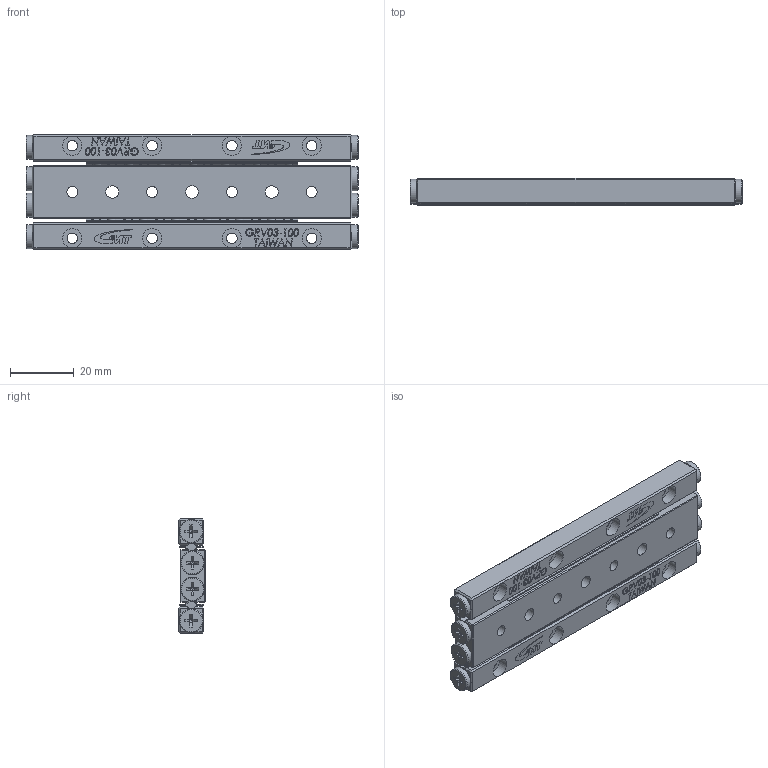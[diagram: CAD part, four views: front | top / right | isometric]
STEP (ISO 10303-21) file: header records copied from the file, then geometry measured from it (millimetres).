
FILE_DESCRIPTION (( 'STEP AP203' ), '1' );
FILE_NAME ('GRD03-100.STEP', '2023-10-27T07:38:11', ( '' ), ( '' ), 'SwSTEP 2.0', 'SolidWorks 2019', '' );
FILE_SCHEMA (( 'CONFIG_CONTROL_DESIGN' ));
Length unit declared in the file: millimetre
Products named in the file (4): GRD03-100-模糊化中軌; GRVP03-100-模糊化保持器組; GRD03-100; GRV03-100-模糊化軌道
Assembly tree (5 placements, depth 2):
  GRD03-100
    GRD03-100-模糊化中軌
    GRV03-100-模糊化軌道  x2
    GRVP03-100-模糊化保持器組  x2
Bounding box: 104 x 8.5 x 36 mm (x, y, z)
Volume: 25366.5 mm3; surface area: 17353.9 mm2
Topology: 5 solids, 5 shells, 1583 faces, 3898 edges, 2508 vertices
Faces by surface type: plane 1045, bspline 205, cylinder 193, cone 72, torus 68
Full cylindrical faces by diameter (mm): 3.3 x8, 3.5 x4, 4 x3, 6 x12, 7.5 x8
Entity records: 37195 total; most frequent: CARTESIAN_POINT 14544, ORIENTED_EDGE 4814, DIRECTION 3969, EDGE_CURVE 2407, LINE 1599, VECTOR 1599, VERTEX_POINT 1562, AXIS2_PLACEMENT_3D 1185
